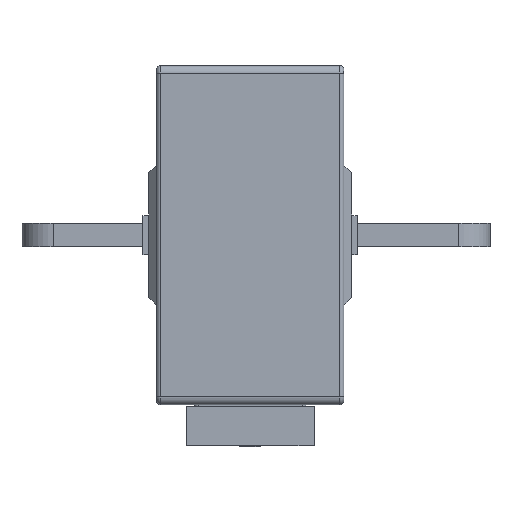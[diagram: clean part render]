
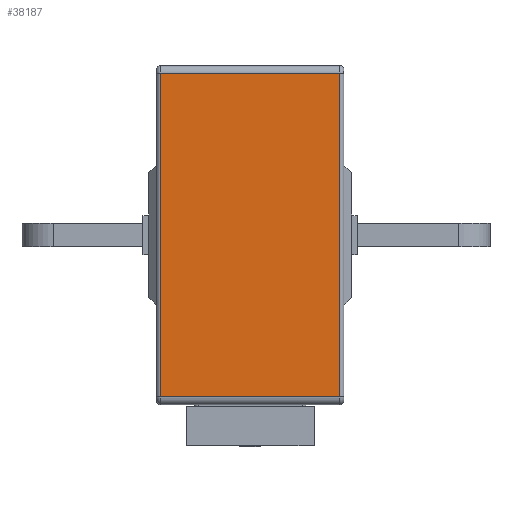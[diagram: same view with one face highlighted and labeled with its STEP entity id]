
A CAD part, left-side view. The second image highlights one B-rep face of the part: STEP entity #38187.
In plain terms, the highlighted planar face has unit normal (-1, 0, 0).
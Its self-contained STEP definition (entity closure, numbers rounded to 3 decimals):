
#87 = EDGE_CURVE ( 'NONE', #14487, #8365, #29748, .T. ) ;
#157 = CARTESIAN_POINT ( 'NONE',  ( -59.329, 66.114, -37.65 ) ) ;
#453 = DIRECTION ( 'NONE',  ( 1., 0., 0. ) ) ;
#844 = VERTEX_POINT ( 'NONE', #29799 ) ;
#1174 = DIRECTION ( 'NONE',  ( 0., 0., -1. ) ) ;
#2615 = LINE ( 'NONE', #15758, #22497 ) ;
#4096 = CARTESIAN_POINT ( 'NONE',  ( -59.329, 112.114, -37.65 ) ) ;
#4106 = EDGE_CURVE ( 'NONE', #8365, #6281, #27495, .T. ) ;
#6281 = VERTEX_POINT ( 'NONE', #15830 ) ;
#6616 = DIRECTION ( 'NONE',  ( 0., -1., 0. ) ) ;
#8365 = VERTEX_POINT ( 'NONE', #157 ) ;
#12461 = DIRECTION ( 'NONE',  ( 0., 1., 0. ) ) ;
#12539 = ORIENTED_EDGE ( 'NONE', *, *, #38318, .T. ) ;
#14487 = VERTEX_POINT ( 'NONE', #19101 ) ;
#15100 = EDGE_LOOP ( 'NONE', ( #31463, #16366, #22338, #12539 ) ) ;
#15758 = CARTESIAN_POINT ( 'NONE',  ( -59.329, 89.114, 45.35 ) ) ;
#15830 = CARTESIAN_POINT ( 'NONE',  ( -59.329, 66.114, 45.35 ) ) ;
#16366 = ORIENTED_EDGE ( 'NONE', *, *, #4106, .T. ) ;
#19101 = CARTESIAN_POINT ( 'NONE',  ( -59.329, 112.114, -37.65 ) ) ;
#20463 = CARTESIAN_POINT ( 'NONE',  ( -59.329, 89.114, -37.65 ) ) ;
#20810 = LINE ( 'NONE', #4096, #35720 ) ;
#20816 = CARTESIAN_POINT ( 'NONE',  ( -59.329, 66.114, 45.35 ) ) ;
#22338 = ORIENTED_EDGE ( 'NONE', *, *, #27998, .T. ) ;
#22497 = VECTOR ( 'NONE', #12461, 1000. ) ;
#26761 = VECTOR ( 'NONE', #35913, 1000. ) ;
#26790 = FACE_OUTER_BOUND ( 'NONE', #15100, .T. ) ;
#27495 = LINE ( 'NONE', #20816, #32463 ) ;
#27998 = EDGE_CURVE ( 'NONE', #6281, #844, #2615, .T. ) ;
#29748 = LINE ( 'NONE', #20463, #26761 ) ;
#29799 = CARTESIAN_POINT ( 'NONE',  ( -59.329, 112.114, 45.35 ) ) ;
#30022 = DIRECTION ( 'NONE',  ( 0., 0., 1. ) ) ;
#30832 = AXIS2_PLACEMENT_3D ( 'NONE', #38654, #453, #6616 ) ;
#31463 = ORIENTED_EDGE ( 'NONE', *, *, #87, .T. ) ;
#32463 = VECTOR ( 'NONE', #30022, 1000. ) ;
#35322 = PLANE ( 'NONE',  #30832 ) ;
#35720 = VECTOR ( 'NONE', #1174, 1000. ) ;
#35913 = DIRECTION ( 'NONE',  ( 0., -1., 0. ) ) ;
#38187 = ADVANCED_FACE ( 'NONE', ( #26790 ), #35322, .F. ) ;
#38318 = EDGE_CURVE ( 'NONE', #844, #14487, #20810, .T. ) ;
#38654 = CARTESIAN_POINT ( 'NONE',  ( -59.329, 89.114, 47.35 ) ) ;
